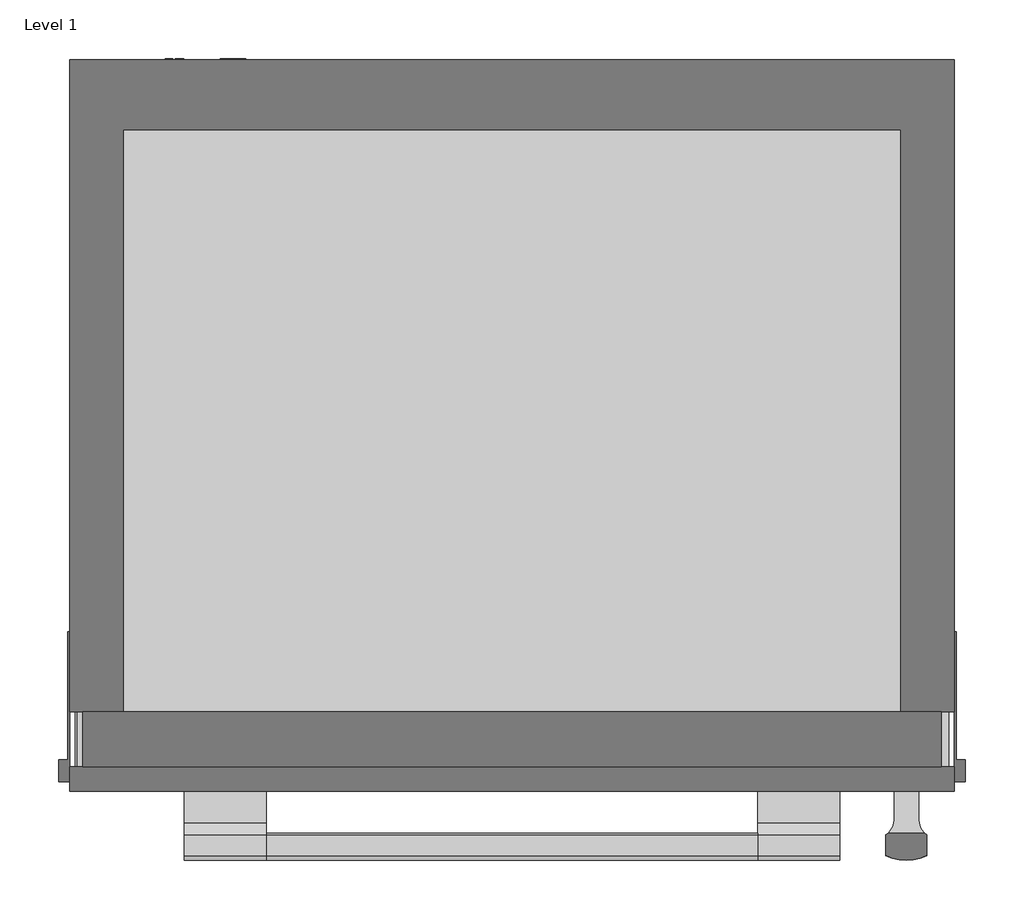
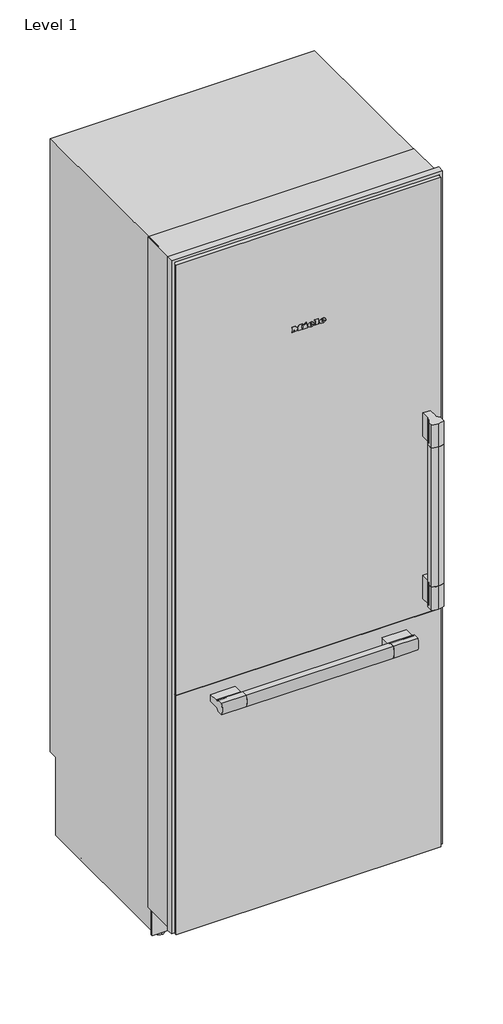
# One storey: 1 proxy.
"""IFC4 building model written with IfcOpenShell, lengths in millimetres."""

from ifc_helpers import new_model, si_unit, origin, place, context, project, spatial, transform, mapped, element, save
from components import specialty_equipment_4a33d1fb

model = new_model("IFC4")

# Units and contexts
model_context = context("Model", 3, world=origin())
ifc_project = project(units=[si_unit("LENGTHUNIT", "METRE", prefix="MILLI")], contexts=[model_context])

# Site, building, storey
site = spatial("IfcSite", under=ifc_project)
building = spatial("IfcBuilding", under=site)
storey = spatial("IfcBuildingStorey", under=building, Name="Level 1", Elevation=0.0)

# Proxy
placement = place(None, origin())
specialty_equipment_shape = specialty_equipment_4a33d1fb(model_context)
element("IfcBuildingElementProxy", 1, Name="10745800_USA_KF2811SF : 38281111_USA_10745800_KF2811SF", ObjectType="10745800_USA_KF2811SF : 38281111_USA_10745800_KF2811SF", at=placement, inside=storey, context=model_context, shape_type="MappedRepresentation", body=[
    mapped(specialty_equipment_shape, transform((0.0, 0.0, 0.0), x_axis=(1.0, 0.0, 0.0), y_axis=(0.0, 1.0, 0.0), z_axis=(0.0, 0.0, 1.0))),
])

save(model, "model.ifc")
